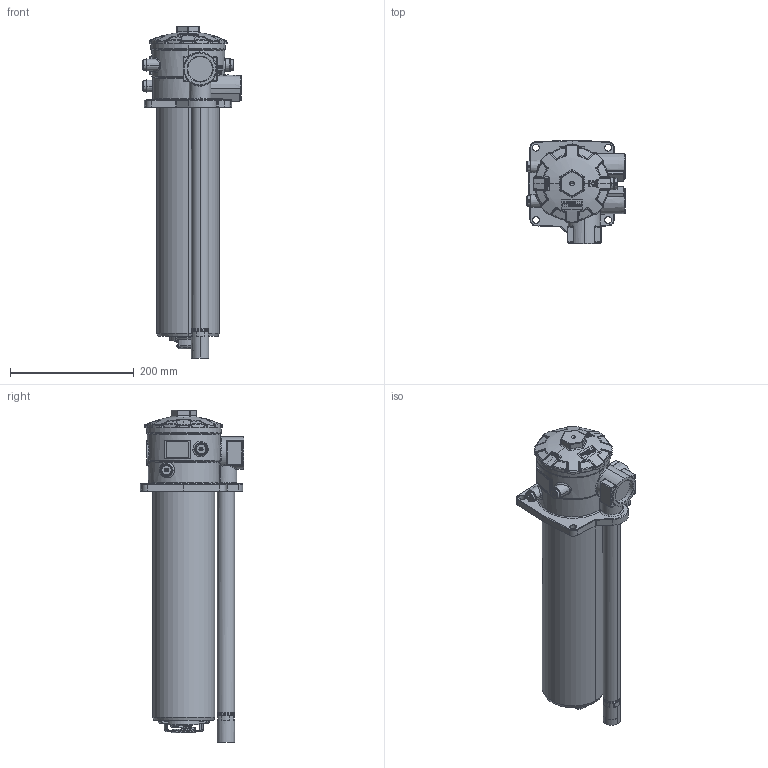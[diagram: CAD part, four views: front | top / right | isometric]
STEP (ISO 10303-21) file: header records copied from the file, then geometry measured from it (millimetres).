
FILE_DESCRIPTION((''),'2;1');
FILE_NAME('1000522750','2024-09-10T11:55:47',('g.topp'),(''),'CREO PARAMETRIC BY PTC INC, 2023254','CREO PARAMETRIC BY PTC INC, 2023254','');
FILE_SCHEMA(('AUTOMOTIVE_DESIGN { 1 0 10303 214 1 1 1 1 }'));
Length unit declared in the file: millimetre
Products named in the file (1): 1000522750
Bounding box: 158.25 x 167.5 x 536 mm (x, y, z)
Volume: 4766253.6 mm3; surface area: 301600 mm2
Topology: 1 solids, 10 shells, 2538 faces, 6512 edges, 4038 vertices
Faces by surface type: plane 1028, bspline 549, cylinder 460, torus 242, cone 116, sphere 112, extrusion 31
Entity records: 128483 total; most frequent: CARTESIAN_POINT 51669, ORIENTED_EDGE 12952, DIRECTION 10889, PRESENTATION_STYLE_ASSIGNMENT 6477, STYLED_ITEM 6477, CURVE_STYLE 6476, EDGE_CURVE 6476, AXIS2_PLACEMENT_3D 4401
